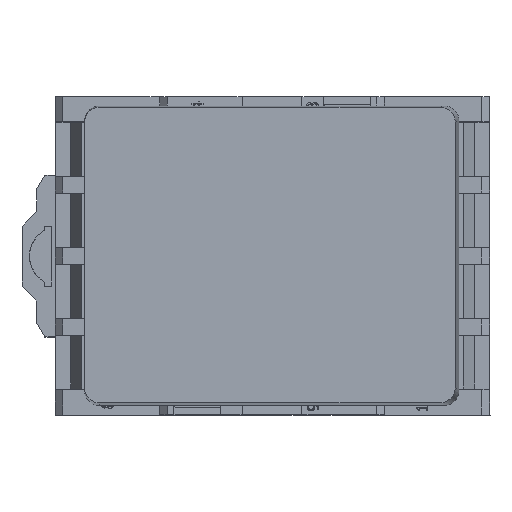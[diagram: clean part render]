
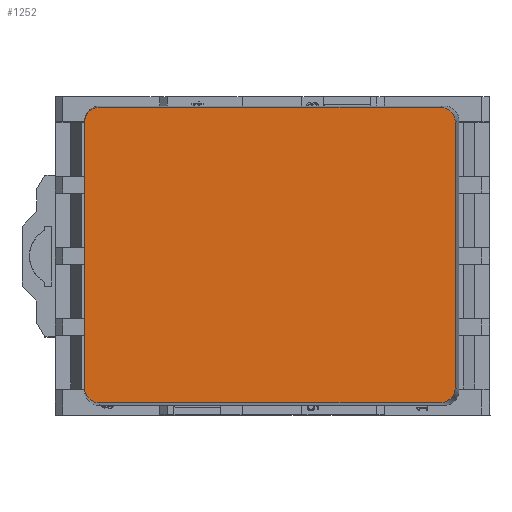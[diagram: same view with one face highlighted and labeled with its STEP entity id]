
A CAD part, top view. The second image highlights one B-rep face of the part: STEP entity #1252.
In plain terms, the highlighted planar face has unit normal (-0.005, 0, 1).
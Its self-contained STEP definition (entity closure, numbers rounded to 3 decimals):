
#1126=CARTESIAN_POINT('',(-36.837,33.79,124.996));
#1127=VERTEX_POINT('',#1126);
#1128=CARTESIAN_POINT('',(-34.837,35.79,125.006));
#1129=VERTEX_POINT('',#1128);
#1130=CARTESIAN_POINT('',(-34.837,33.79,125.006));
#1131=DIRECTION('',(0.005,0.,-1.));
#1132=DIRECTION('',(-0.707,0.707,-0.003));
#1133=AXIS2_PLACEMENT_3D('',#1130,#1131,#1132);
#1134=ELLIPSE('',#1133,2.,2.0);
#1135=EDGE_CURVE('',#1127,#1129,#1134,.T.);
#1169=CARTESIAN_POINT('',(10.662,35.79,125.216));
#1170=VERTEX_POINT('',#1169);
#1171=CARTESIAN_POINT('',(10.662,35.79,125.216));
#1172=DIRECTION('',(-1.,0.,-0.005));
#1173=VECTOR('',#1172,45.5);
#1174=LINE('',#1171,#1173);
#1175=EDGE_CURVE('',#1170,#1129,#1174,.T.);
#1194=CARTESIAN_POINT('',(-12.087,16.04,125.111));
#1195=DIRECTION('',(0.005,0.,-1.));
#1196=DIRECTION('',(0.0,-1.0,0.0));
#1197=AXIS2_PLACEMENT_3D('',#1194,#1195,#1196);
#1198=PLANE('',#1197);
#1199=ORIENTED_EDGE('',*,*,#1135,.F.);
#1200=CARTESIAN_POINT('',(-36.837,-1.71,124.996));
#1201=VERTEX_POINT('',#1200);
#1202=CARTESIAN_POINT('',(-36.837,33.79,124.996));
#1203=DIRECTION('',(0.0,-1.0,0.0));
#1204=VECTOR('',#1203,35.5);
#1205=LINE('',#1202,#1204);
#1206=EDGE_CURVE('',#1127,#1201,#1205,.T.);
#1207=ORIENTED_EDGE('',*,*,#1206,.T.);
#1208=CARTESIAN_POINT('',(-34.837,-3.71,125.006));
#1209=VERTEX_POINT('',#1208);
#1210=CARTESIAN_POINT('',(-34.837,-1.71,125.006));
#1211=DIRECTION('',(0.005,0.,-1.));
#1212=DIRECTION('',(-0.707,-0.707,-0.003));
#1213=AXIS2_PLACEMENT_3D('',#1210,#1211,#1212);
#1214=ELLIPSE('',#1213,2.,2.0);
#1215=EDGE_CURVE('',#1209,#1201,#1214,.T.);
#1216=ORIENTED_EDGE('',*,*,#1215,.F.);
#1217=CARTESIAN_POINT('',(10.662,-3.71,125.216));
#1218=VERTEX_POINT('',#1217);
#1219=CARTESIAN_POINT('',(-34.837,-3.71,125.006));
#1220=DIRECTION('',(1.,0.,0.005));
#1221=VECTOR('',#1220,45.5);
#1222=LINE('',#1219,#1221);
#1223=EDGE_CURVE('',#1209,#1218,#1222,.T.);
#1224=ORIENTED_EDGE('',*,*,#1223,.T.);
#1225=CARTESIAN_POINT('',(12.662,-1.71,125.225));
#1226=VERTEX_POINT('',#1225);
#1227=CARTESIAN_POINT('',(10.662,-1.71,125.216));
#1228=DIRECTION('',(0.005,0.,-1.));
#1229=DIRECTION('',(0.707,-0.707,0.003));
#1230=AXIS2_PLACEMENT_3D('',#1227,#1228,#1229);
#1231=ELLIPSE('',#1230,2.,2.0);
#1232=EDGE_CURVE('',#1226,#1218,#1231,.T.);
#1233=ORIENTED_EDGE('',*,*,#1232,.F.);
#1234=CARTESIAN_POINT('',(12.662,33.79,125.225));
#1235=VERTEX_POINT('',#1234);
#1236=CARTESIAN_POINT('',(12.662,-1.71,125.225));
#1237=DIRECTION('',(0.0,1.0,0.0));
#1238=VECTOR('',#1237,35.5);
#1239=LINE('',#1236,#1238);
#1240=EDGE_CURVE('',#1226,#1235,#1239,.T.);
#1241=ORIENTED_EDGE('',*,*,#1240,.T.);
#1242=CARTESIAN_POINT('',(10.662,33.79,125.216));
#1243=DIRECTION('',(0.005,0.,-1.));
#1244=DIRECTION('',(0.707,0.707,0.003));
#1245=AXIS2_PLACEMENT_3D('',#1242,#1243,#1244);
#1246=ELLIPSE('',#1245,2.,2.0);
#1247=EDGE_CURVE('',#1170,#1235,#1246,.T.);
#1248=ORIENTED_EDGE('',*,*,#1247,.F.);
#1249=ORIENTED_EDGE('',*,*,#1175,.T.);
#1250=EDGE_LOOP('',(#1199,#1207,#1216,#1224,#1233,#1241,#1248,#1249));
#1251=FACE_OUTER_BOUND('',#1250,.T.);
#1252=ADVANCED_FACE('',(#1251),#1198,.F.);
